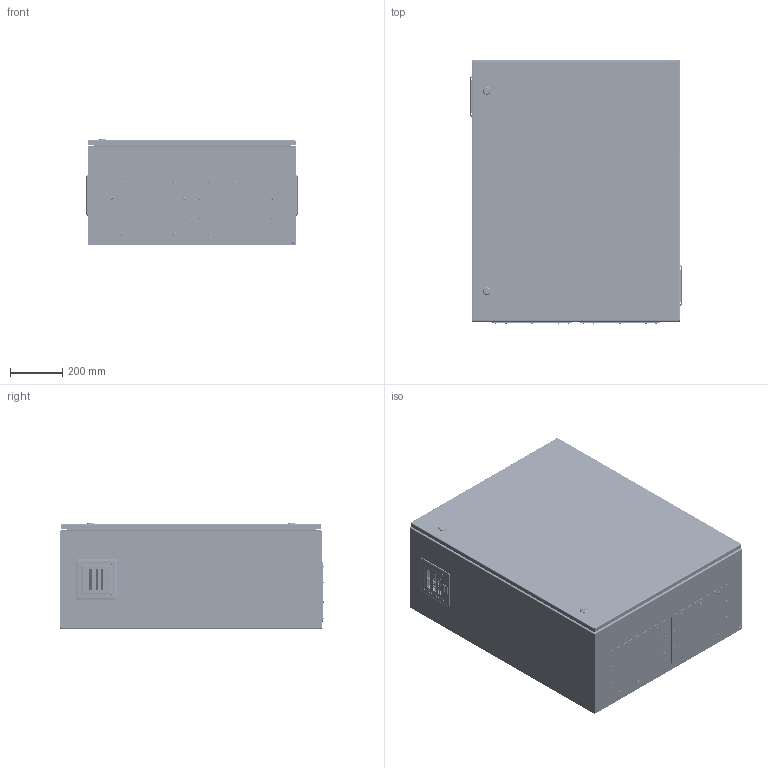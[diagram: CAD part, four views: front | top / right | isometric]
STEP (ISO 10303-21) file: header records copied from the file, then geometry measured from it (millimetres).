
FILE_DESCRIPTION (( 'STEP AP214' ), '1' );
FILE_NAME ('T-CCS 100.80.40-V.STEP', '2024-05-22T12:38:56', ( '' ), ( '' ), 'SwSTEP 2.0', 'SolidWorks 2019', '' );
FILE_SCHEMA (( 'AUTOMOTIVE_DESIGN' ));
Length unit declared in the file: millimetre
Products named in the file (1): T-CCS 100.80.40-V
Bounding box: 812.2 x 1007.22 x 405 mm (x, y, z)
Volume: 8272800.9 mm3; surface area: 9021736.5 mm2
Topology: 129 solids, 129 shells, 8890 faces, 24496 edges, 15400 vertices
Faces by surface type: plane 4410, cylinder 2453, bspline 722, torus 625, cone 586, sphere 94
Entity records: 524148 total; most frequent: CARTESIAN_POINT 210597, ORIENTED_EDGE 48842, DIRECTION 39555, EDGE_CURVE 24421, VERTEX_POINT 15398, AXIS2_PLACEMENT_3D 13208, LINE 13139, VECTOR 13139
